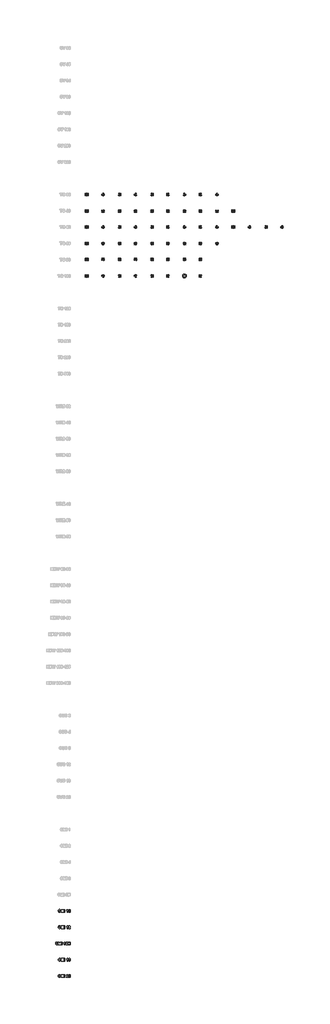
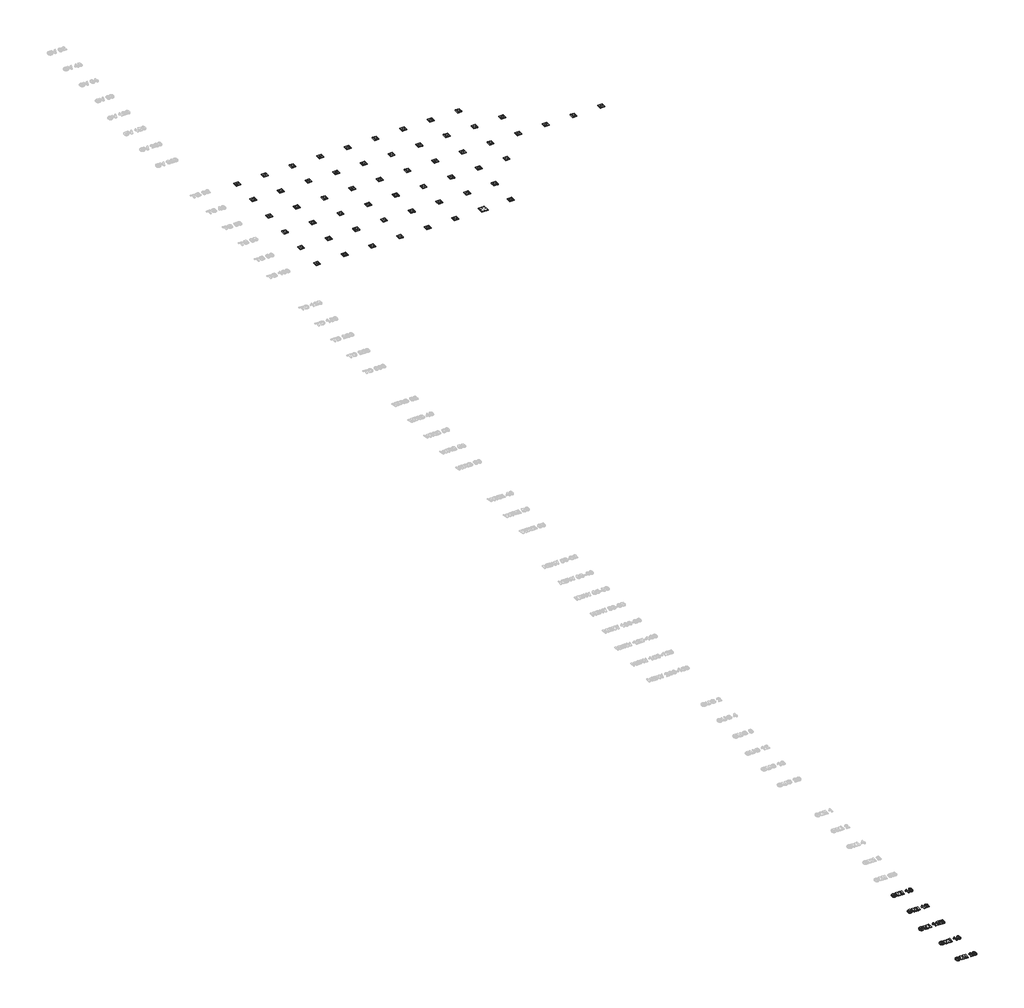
# One storey, part 1 of 9: 62 proxies.
"""IFC4 building model written with IfcOpenShell, lengths in millimetres."""

from ifc_helpers import new_model, si_unit, origin, origin_with_axes, place, context, project, spatial, polyline, outline, extrude, transform, mapped, element, save
from components import mechanical_equipment_3c7e0f70, mechanical_equipment_df366a0f

model = new_model("IFC4")

# Units and contexts
model_context = context("Model", 3, world=origin())
ifc_project = project(units=[si_unit("LENGTHUNIT", "METRE", prefix="MILLI")], contexts=[model_context])

# Site, building, storey
site = spatial("IfcSite", under=ifc_project)
building = spatial("IfcBuilding", under=site)
storey = spatial("IfcBuildingStorey", under=building, Name="Этаж 01", Elevation=0.0)

# Proxies
placement = place(None, origin())
element("IfcBuildingElementProxy", 1, Name="Wellmix_Надпись1", ObjectType="Wellmix_Надпись1", at=placement, inside=storey, context=model_context, shape_type="SweptSolid", body=[
    extrude(outline(polyline([(23925.2814314, -81009.0718122), (23973.8652124, -81025.2664059), (23958.5404455, -81061.0479177), (23948.0194949, -81074.9829386), (23935.5928329, -81086.2808027), (23905.2279698, -81101.2497313), (23867.6514517, -81106.2393741), (23843.3239774, -81104.1082985), (23821.2659603, -81097.7150714), (23801.4774004, -81087.059693), (23783.9582978, -81072.1421633), (23769.6219705, -81053.5278696), (23759.3817367, -81031.7821994), (23753.2375965, -81006.9051527), (23751.1895497, -80978.8967295), (23753.2553884, -80949.3621557), (23759.4529044, -80923.3227041), (23769.7820977, -80900.7783747), (23784.2429684, -80881.7291676), (23802.0724411, -80866.5902274), (23822.5074404, -80855.7766987), (23845.5479664, -80849.2885815), (23871.1940191, -80847.1258757), (23893.6197356, -80848.9090207), (23913.8313476, -80854.2584556), (23931.828855, -80863.1741803), (23947.6122578, -80875.656195), (23962.9370247, -80896.1682926), (23973.8652124, -80924.0501956), (23925.2814314, -80932.1474924), (23917.8404585, -80915.34402), (23905.1330796, -80902.5101208), (23888.1398268, -80894.3732864), (23867.8412321, -80891.6610083), (23840.3942426, -80896.587391), (23818.6564799, -80911.3665392), (23810.3951021, -80922.7434785), (23804.494118, -80937.1687653), (23799.7733306, -80975.1643818), (23804.3517827, -81015.2396751), (23810.0748477, -81030.2244187), (23818.0871387, -81041.8405603), (23839.16067, -81056.7383213), (23865.7536477, -81061.7042416), (23885.830832, -81058.5333275), (23902.918975, -81049.0205853), (23916.3064003, -81032.6915638), (23925.2814314, -81009.0718122)])), origin_with_axes(), (0.0, 0.0, 1.0), 30.0),
    extrude(outline(polyline([(24014.3516965, -81106.2393741), (24014.3516965, -80851.1745242), (24097.6020295, -80851.1745242), (24137.8354731, -81025.1398856), (24178.0689167, -80851.1745242), (24261.3192497, -80851.1745242), (24261.3192497, -81106.2393741), (24212.7354687, -81106.2393741), (24210.7111445, -80905.4517169), (24166.3025322, -81106.2393741), (24109.4316741, -81106.2393741), (24064.9598017, -80905.4517169), (24062.9354775, -81106.2393741), (24014.3516965, -81106.2393741)])), origin_with_axes(), (0.0, 0.0, 1.0), 30.0),
    extrude(outline(polyline([(24309.9030306, -81106.2393741), (24309.9030306, -80851.1745242), (24358.4868116, -80851.1745242), (24358.4868116, -81106.2393741), (24309.9030306, -81106.2393741)])), origin_with_axes(), (0.0, 0.0, 1.0), 30.0),
    extrude(outline(polyline([(24617.60031, -81106.2393741), (24569.016529, -81106.2393741), (24569.016529, -80923.9236753), (24540.9606607, -80947.8043749), (24508.2868028, -80964.5366797), (24508.2868028, -80915.9528988), (24527.7551083, -80906.8671624), (24548.8365471, -80892.1354593), (24567.2926904, -80873.1178823), (24578.8851095, -80851.1745242), (24617.60031, -80851.1745242), (24617.60031, -81106.2393741)])), origin_with_axes(), (0.0, 0.0, 1.0), 30.0),
    extrude(outline(polyline([(24771.4489497, -80851.1745242), (24788.580584, -80852.8192876), (24803.7274317, -80857.7535778), (24816.8894928, -80865.9773949), (24828.0667673, -80877.4907388), (24838.7221457, -80895.6187203), (24846.3331303, -80918.8786798), (24850.899721, -80947.2706176), (24852.4219179, -80980.7945335), (24850.8918135, -81014.2868193), (24846.3015002, -81042.7103871), (24838.650978, -81066.0652369), (24827.940247, -81084.3513687), (24816.8183252, -81095.6986547), (24803.6958017, -81103.8038591), (24788.5726765, -81108.6669817), (24771.4489497, -81110.2880226), (24754.1413731, -81108.5088314), (24738.5932189, -81103.1712578), (24724.8044871, -81094.2753018), (24712.7751777, -81081.8209634), (24703.0192793, -81064.8000343), (24696.0507805, -81042.2043061), (24691.8696812, -81014.0337788), (24690.4759814, -80980.2884524), (24692.0060858, -80946.9622244), (24696.5963991, -80918.6572694), (24704.2469213, -80895.3735872), (24714.9576523, -80877.111178), (24726.0795741, -80865.763892), (24739.2020977, -80857.6586876), (24754.3252228, -80852.795565), (24771.4489497, -80851.1745242)]), holes=[polyline([(24771.4489497, -80895.7096567), (24755.254356, -80901.0551378), (24748.9283429, -80908.5277408), (24744.2470931, -80920.2545877), (24740.3565951, -80944.4041429), (24739.0597624, -80980.7945335), (24740.2142598, -81016.7025656), (24743.677752, -81039.278525), (24748.9046203, -81052.5315225), (24755.3492462, -81060.470669), (24771.4489497, -81065.75289), (24787.6435433, -81060.4074089), (24793.9695565, -81052.9348059), (24798.6508062, -81041.207959), (24802.5413043, -81017.1849241), (24803.838137, -80980.7945335), (24802.6836396, -80944.926039), (24799.2201474, -80922.342172), (24793.993279, -80909.0496369), (24787.5486531, -80901.0551378), (24771.4489497, -80895.7096567)])]), origin_with_axes(), (0.0, 0.0, 1.0), 30.0),
])
element("IfcBuildingElementProxy", 2, Name="Wellmix_Надпись1", ObjectType="Wellmix_Надпись1", at=placement, inside=storey, context=model_context, shape_type="SweptSolid", body=[
    extrude(outline(polyline([(23925.2814314, -82509.0718122), (23973.8652124, -82525.2664059), (23958.5404455, -82561.0479177), (23948.0194949, -82574.9829386), (23935.5928329, -82586.2808027), (23905.2279698, -82601.2497313), (23867.6514517, -82606.2393741), (23843.3239774, -82604.1082985), (23821.2659603, -82597.7150714), (23801.4774004, -82587.059693), (23783.9582978, -82572.1421633), (23769.6219705, -82553.5278696), (23759.3817367, -82531.7821994), (23753.2375965, -82506.9051527), (23751.1895497, -82478.8967295), (23753.2553884, -82449.3621557), (23759.4529044, -82423.3227041), (23769.7820977, -82400.7783747), (23784.2429684, -82381.7291676), (23802.0724411, -82366.5902274), (23822.5074404, -82355.7766987), (23845.5479664, -82349.2885815), (23871.1940191, -82347.1258757), (23893.6197356, -82348.9090207), (23913.8313476, -82354.2584556), (23931.828855, -82363.1741803), (23947.6122578, -82375.656195), (23962.9370247, -82396.1682926), (23973.8652124, -82424.0501956), (23925.2814314, -82432.1474924), (23917.8404585, -82415.34402), (23905.1330796, -82402.5101208), (23888.1398268, -82394.3732864), (23867.8412321, -82391.6610083), (23840.3942426, -82396.587391), (23818.6564799, -82411.3665392), (23810.3951021, -82422.7434785), (23804.494118, -82437.1687653), (23799.7733306, -82475.1643818), (23804.3517827, -82515.2396751), (23810.0748477, -82530.2244187), (23818.0871387, -82541.8405603), (23839.16067, -82556.7383213), (23865.7536477, -82561.7042416), (23885.830832, -82558.5333275), (23902.918975, -82549.0205853), (23916.3064003, -82532.6915638), (23925.2814314, -82509.0718122)])), origin_with_axes(), (0.0, 0.0, 1.0), 30.0),
    extrude(outline(polyline([(24014.3516965, -82606.2393741), (24014.3516965, -82351.1745242), (24097.6020295, -82351.1745242), (24137.8354731, -82525.1398856), (24178.0689167, -82351.1745242), (24261.3192497, -82351.1745242), (24261.3192497, -82606.2393741), (24212.7354687, -82606.2393741), (24210.7111445, -82405.4517169), (24166.3025322, -82606.2393741), (24109.4316741, -82606.2393741), (24064.9598017, -82405.4517169), (24062.9354775, -82606.2393741), (24014.3516965, -82606.2393741)])), origin_with_axes(), (0.0, 0.0, 1.0), 30.0),
    extrude(outline(polyline([(24309.9030306, -82606.2393741), (24309.9030306, -82351.1745242), (24358.4868116, -82351.1745242), (24358.4868116, -82606.2393741), (24309.9030306, -82606.2393741)])), origin_with_axes(), (0.0, 0.0, 1.0), 30.0),
    extrude(outline(polyline([(24617.60031, -82606.2393741), (24569.016529, -82606.2393741), (24569.016529, -82423.9236753), (24540.9606607, -82447.8043749), (24508.2868028, -82464.5366797), (24508.2868028, -82415.9528988), (24527.7551083, -82406.8671624), (24548.8365471, -82392.1354593), (24567.2926904, -82373.1178823), (24578.8851095, -82351.1745242), (24617.60031, -82351.1745242), (24617.60031, -82606.2393741)])), origin_with_axes(), (0.0, 0.0, 1.0), 30.0),
    extrude(outline(polyline([(24852.4219179, -82557.6555932), (24852.4219179, -82606.2393741), (24690.4759814, -82606.2393741), (24695.6474972, -82581.7339807), (24705.9747136, -82558.5728651), (24725.1583485, -82532.3910782), (24756.8991194, -82498.823671), (24794.4756375, -82458.0841463), (24801.4975121, -82443.3761657), (24803.838137, -82428.8579656), (24801.8691654, -82414.7114187), (24795.9622506, -82404.2814045), (24786.5918436, -82397.8525936), (24774.2323954, -82395.7096567), (24761.9599299, -82397.8209636), (24752.4709102, -82404.1548842), (24746.0816369, -82415.3756501), (24743.1084108, -82432.1474924), (24694.5246298, -82427.7192832), (24703.1280077, -82392.5703727), (24710.7508535, -82379.3312133), (24720.587804, -82368.9822512), (24745.2118101, -82355.6264559), (24775.3078177, -82351.1745242), (24807.4439644, -82356.164167), (24831.8623752, -82371.1330956), (24847.2820322, -82393.5192746), (24852.4219179, -82420.7606687), (24846.7917662, -82452.8968155), (24828.9524091, -82484.8431819), (24798.7456964, -82516.7262881), (24771.0061287, -82544.3709656), (24761.8966698, -82557.6555932), (24852.4219179, -82557.6555932)])), origin_with_axes(), (0.0, 0.0, 1.0), 30.0),
])
element("IfcBuildingElementProxy", 3, Name="Wellmix_Надпись1", ObjectType="Wellmix_Надпись1", at=placement, inside=storey, context=model_context, shape_type="SweptSolid", body=[
    extrude(outline(polyline([(23670.2165814, -84009.0718122), (23718.8003624, -84025.2664059), (23703.4755956, -84061.0479177), (23692.9546449, -84074.9829386), (23680.5279829, -84086.2808027), (23650.1631198, -84101.2497313), (23612.5866017, -84106.2393741), (23588.2591274, -84104.1082985), (23566.2011103, -84097.7150714), (23546.4125505, -84087.059693), (23528.8934478, -84072.1421633), (23514.5571205, -84053.5278696), (23504.3168867, -84031.7821994), (23498.1727465, -84006.9051527), (23496.1246997, -83978.8967295), (23498.1905384, -83949.3621557), (23504.3880544, -83923.3227041), (23514.7172477, -83900.7783747), (23529.1781184, -83881.7291676), (23547.0075911, -83866.5902274), (23567.4425904, -83855.7766987), (23590.4831164, -83849.2885815), (23616.1291691, -83847.1258757), (23638.5548857, -83848.9090207), (23658.7664977, -83854.2584556), (23676.7640051, -83863.1741803), (23692.5474078, -83875.656195), (23707.8721747, -83896.1682926), (23718.8003624, -83924.0501956), (23670.2165814, -83932.1474924), (23662.7756085, -83915.34402), (23650.0682296, -83902.5101208), (23633.0749768, -83894.3732864), (23612.7763821, -83891.6610083), (23585.3293926, -83896.587391), (23563.5916299, -83911.3665392), (23555.3302521, -83922.7434785), (23549.429268, -83937.1687653), (23544.7084807, -83975.1643818), (23549.2869327, -84015.2396751), (23555.0099977, -84030.2244187), (23563.0222887, -84041.8405603), (23584.09582, -84056.7383213), (23610.6887978, -84061.7042416), (23630.765982, -84058.5333275), (23647.854125, -84049.0205853), (23661.2415503, -84032.6915638), (23670.2165814, -84009.0718122)])), origin_with_axes(), (0.0, 0.0, 1.0), 30.0),
    extrude(outline(polyline([(23759.2868465, -84106.2393741), (23759.2868465, -83851.1745242), (23842.5371795, -83851.1745242), (23882.7706231, -84025.1398856), (23923.0040667, -83851.1745242), (24006.2543997, -83851.1745242), (24006.2543997, -84106.2393741), (23957.6706187, -84106.2393741), (23955.6462945, -83905.4517169), (23911.2376823, -84106.2393741), (23854.3668241, -84106.2393741), (23809.8949517, -83905.4517169), (23807.8706275, -84106.2393741), (23759.2868465, -84106.2393741)])), origin_with_axes(), (0.0, 0.0, 1.0), 30.0),
    extrude(outline(polyline([(24054.8381806, -84106.2393741), (24054.8381806, -83851.1745242), (24103.4219616, -83851.1745242), (24103.4219616, -84106.2393741), (24054.8381806, -84106.2393741)])), origin_with_axes(), (0.0, 0.0, 1.0), 30.0),
    extrude(outline(polyline([(24362.53546, -84106.2393741), (24313.951679, -84106.2393741), (24313.951679, -83923.9236753), (24285.8958107, -83947.8043749), (24253.2219529, -83964.5366797), (24253.2219529, -83915.9528988), (24272.6902583, -83906.8671624), (24293.7716971, -83892.1354593), (24312.2278405, -83873.1178823), (24323.8202595, -83851.1745242), (24362.53546, -83851.1745242), (24362.53546, -84106.2393741)])), origin_with_axes(), (0.0, 0.0, 1.0), 30.0),
    extrude(outline(polyline([(24597.3570679, -84057.6555932), (24597.3570679, -84106.2393741), (24435.4111314, -84106.2393741), (24440.5826472, -84081.7339807), (24450.9098636, -84058.5728651), (24470.0934985, -84032.3910782), (24501.8342694, -83998.823671), (24539.4107875, -83958.0841463), (24546.4326621, -83943.3761657), (24548.773287, -83928.8579656), (24546.8043154, -83914.7114187), (24540.8974006, -83904.2814045), (24531.5269936, -83897.8525936), (24519.1675455, -83895.7096567), (24506.89508, -83897.8209636), (24497.4060602, -83904.1548842), (24491.016787, -83915.3756501), (24488.0435608, -83932.1474924), (24439.4597798, -83927.7192832), (24448.0631577, -83892.5703727), (24455.6860035, -83879.3312133), (24465.522954, -83868.9822512), (24490.1469601, -83855.6264559), (24520.2429677, -83851.1745242), (24552.3791145, -83856.164167), (24576.7975252, -83871.1330956), (24592.2171822, -83893.5192746), (24597.3570679, -83920.7606687), (24591.7269162, -83952.8968155), (24573.8875592, -83984.8431819), (24543.6808464, -84016.7262881), (24515.9412787, -84044.3709656), (24506.8318198, -84057.6555932), (24597.3570679, -84057.6555932)])), origin_with_axes(), (0.0, 0.0, 1.0), 30.0),
    extrude(outline(polyline([(24637.843552, -83851.1745242), (24742.5390696, -83851.1745242), (24788.8771159, -83853.7049294), (24816.2054927, -83864.3010014), (24827.2522931, -83873.695131), (24836.2905844, -83885.746186), (24842.3161119, -83899.940178), (24844.3246211, -83915.7631184), (24841.9286436, -83933.0015042), (24834.7407112, -83948.784907), (24823.4408702, -83961.9588294), (24808.7091671, -83971.3687739), (24827.3392758, -83980.5098629), (24841.0983544, -83994.3954617), (24849.591027, -84012.0924835), (24852.4219179, -84032.6678413), (24850.3896862, -84049.7559843), (24844.292991, -84066.3538613), (24834.677451, -84081.0618418), (24822.0886849, -84092.4802956), (24806.3764497, -84100.3799045), (24787.3905028, -84104.5313506), (24725.0160132, -84106.2393741), (24637.843552, -84106.2393741), (24637.843552, -83851.1745242)]), holes=[polyline([(24686.427333, -83895.7096567), (24686.427333, -83952.3907345), (24723.49777, -83952.3907345), (24764.6168555, -83951.5683528), (24777.5614599, -83948.6109416), (24787.4221328, -83942.7751945), (24793.6611633, -83934.345782), (24795.7408401, -83923.6073747), (24793.9458339, -83913.3355108), (24788.5608152, -83905.1670463), (24779.6490442, -83899.449912), (24767.273781, -83896.5320384), (24718.9430406, -83895.7096567), (24686.427333, -83895.7096567)]), polyline([(24686.427333, -83996.925867), (24686.427333, -84061.7042416), (24737.7945597, -84061.7042416), (24775.8771589, -84060.1859985), (24787.1216472, -84056.7936739), (24796.0571408, -84050.5388284), (24801.8928879, -84041.5479822), (24803.838137, -84029.9476556), (24802.3357088, -84019.8892947), (24797.8284245, -84011.4756972), (24780.4951485, -84000.4051742), (24731.2787662, -83996.925867), (24686.427333, -83996.925867)])]), origin_with_axes(), (0.0, 0.0, 1.0), 30.0),
])
element("IfcBuildingElementProxy", 4, Name="Wellmix_Надпись1", ObjectType="Wellmix_Надпись1", at=placement, inside=storey, context=model_context, shape_type="SweptSolid", body=[
    extrude(outline(polyline([(23925.2814314, -85509.0718122), (23973.8652124, -85525.2664059), (23958.5404455, -85561.0479177), (23948.0194949, -85574.9829386), (23935.5928329, -85586.2808027), (23905.2279698, -85601.2497313), (23867.6514517, -85606.2393741), (23843.3239774, -85604.1082985), (23821.2659603, -85597.7150714), (23801.4774004, -85587.059693), (23783.9582978, -85572.1421633), (23769.6219705, -85553.5278696), (23759.3817367, -85531.7821994), (23753.2375965, -85506.9051527), (23751.1895497, -85478.8967295), (23753.2553884, -85449.3621557), (23759.4529044, -85423.3227041), (23769.7820977, -85400.7783747), (23784.2429684, -85381.7291676), (23802.0724411, -85366.5902274), (23822.5074404, -85355.7766987), (23845.5479664, -85349.2885815), (23871.1940191, -85347.1258757), (23893.6197356, -85348.9090207), (23913.8313476, -85354.2584556), (23931.828855, -85363.1741803), (23947.6122578, -85375.656195), (23962.9370247, -85396.1682926), (23973.8652124, -85424.0501956), (23925.2814314, -85432.1474924), (23917.8404585, -85415.34402), (23905.1330796, -85402.5101208), (23888.1398268, -85394.3732864), (23867.8412321, -85391.6610083), (23840.3942426, -85396.587391), (23818.6564799, -85411.3665392), (23810.3951021, -85422.7434785), (23804.494118, -85437.1687653), (23799.7733306, -85475.1643818), (23804.3517827, -85515.2396751), (23810.0748477, -85530.2244187), (23818.0871387, -85541.8405603), (23839.16067, -85556.7383213), (23865.7536477, -85561.7042416), (23885.830832, -85558.5333275), (23902.918975, -85549.0205853), (23916.3064003, -85532.6915638), (23925.2814314, -85509.0718122)])), origin_with_axes(), (0.0, 0.0, 1.0), 30.0),
    extrude(outline(polyline([(24014.3516965, -85606.2393741), (24014.3516965, -85351.1745242), (24097.6020295, -85351.1745242), (24137.8354731, -85525.1398856), (24178.0689167, -85351.1745242), (24261.3192497, -85351.1745242), (24261.3192497, -85606.2393741), (24212.7354687, -85606.2393741), (24210.7111445, -85405.4517169), (24166.3025322, -85606.2393741), (24109.4316741, -85606.2393741), (24064.9598017, -85405.4517169), (24062.9354775, -85606.2393741), (24014.3516965, -85606.2393741)])), origin_with_axes(), (0.0, 0.0, 1.0), 30.0),
    extrude(outline(polyline([(24309.9030306, -85606.2393741), (24309.9030306, -85351.1745242), (24358.4868116, -85351.1745242), (24358.4868116, -85606.2393741), (24309.9030306, -85606.2393741)])), origin_with_axes(), (0.0, 0.0, 1.0), 30.0),
    extrude(outline(polyline([(24617.60031, -85606.2393741), (24569.016529, -85606.2393741), (24569.016529, -85423.9236753), (24540.9606607, -85447.8043749), (24508.2868028, -85464.5366797), (24508.2868028, -85415.9528988), (24527.7551083, -85406.8671624), (24548.8365471, -85392.1354593), (24567.2926904, -85373.1178823), (24578.8851095, -85351.1745242), (24617.60031, -85351.1745242), (24617.60031, -85606.2393741)])), origin_with_axes(), (0.0, 0.0, 1.0), 30.0),
    extrude(outline(polyline([(24848.3732695, -85418.8628648), (24799.7894885, -85424.0501956), (24796.8162624, -85411.4535219), (24791.1861107, -85402.6366411), (24783.183704, -85397.4414028), (24773.0937131, -85395.7096567), (24759.4927848, -85399.0703512), (24748.1692213, -85409.1524346), (24739.866329, -85429.9887404), (24735.3274146, -85465.6121019), (24755.3492462, -85449.6231037), (24779.7360269, -85444.2934376), (24807.5625772, -85449.9868495), (24831.0716235, -85467.067085), (24847.0843443, -85493.1460742), (24852.4219179, -85525.8357471), (24846.9657316, -85560.2729811), (24840.1454986, -85574.6626842), (24830.5971726, -85587.1664445), (24818.9059095, -85597.2821349), (24805.6568657, -85604.507628), (24774.485436, -85610.2880226), (24756.954472, -85608.4218487), (24741.0524565, -85602.823327), (24726.7793893, -85593.4924577), (24714.1352706, -85580.4292405), (24703.7843316, -85563.1157333), (24696.3908037, -85541.0339937), (24691.954687, -85514.1840216), (24690.4759814, -85482.5658172), (24692.019924, -85450.1133697), (24696.6517517, -85422.5319524), (24704.3714647, -85399.8215652), (24715.1790627, -85381.9822082), (24728.4538059, -85368.5038464), (24743.5749542, -85358.8764452), (24760.5425076, -85353.1000044), (24779.3564661, -85351.1745242), (24804.6763337, -85355.5078432), (24825.2200614, -85368.5078002), (24840.0861923, -85389.7632043), (24848.3732695, -85418.8628648)]), holes=[polyline([(24739.0597624, -85524.7603248), (24741.6850578, -85542.1805835), (24749.5609442, -85555.0935579), (24760.8054325, -85563.088057), (24773.536534, -85565.75289), (24785.4294387, -85563.5704155), (24795.1714989, -85557.0229919), (24801.6714775, -85545.4938329), (24803.838137, -85528.3661523), (24801.5054196, -85510.6137779), (24794.5072676, -85498.34922), (24784.0139933, -85491.2087326), (24771.1959091, -85488.8285702), (24758.7573858, -85491.1059349), (24748.3906317, -85497.9380291), (24741.3924797, -85509.1983325), (24739.0597624, -85524.7603248)])]), origin_with_axes(), (0.0, 0.0, 1.0), 30.0),
])
element("IfcBuildingElementProxy", 5, Name="Wellmix_Надпись1", ObjectType="Wellmix_Надпись1", at=placement, inside=storey, context=model_context, shape_type="SweptSolid", body=[
    extrude(outline(polyline([(23925.2814314, -87009.0718122), (23973.8652124, -87025.2664059), (23958.5404455, -87061.0479177), (23948.0194949, -87074.9829386), (23935.5928329, -87086.2808027), (23905.2279698, -87101.2497313), (23867.6514517, -87106.2393741), (23843.3239774, -87104.1082985), (23821.2659603, -87097.7150714), (23801.4774004, -87087.059693), (23783.9582978, -87072.1421633), (23769.6219705, -87053.5278696), (23759.3817367, -87031.7821994), (23753.2375965, -87006.9051527), (23751.1895497, -86978.8967295), (23753.2553884, -86949.3621557), (23759.4529044, -86923.3227041), (23769.7820977, -86900.7783747), (23784.2429684, -86881.7291676), (23802.0724411, -86866.5902274), (23822.5074404, -86855.7766987), (23845.5479664, -86849.2885815), (23871.1940191, -86847.1258757), (23893.6197356, -86848.9090207), (23913.8313476, -86854.2584556), (23931.828855, -86863.1741803), (23947.6122578, -86875.656195), (23962.9370247, -86896.1682926), (23973.8652124, -86924.0501956), (23925.2814314, -86932.1474924), (23917.8404585, -86915.34402), (23905.1330796, -86902.5101208), (23888.1398268, -86894.3732864), (23867.8412321, -86891.6610083), (23840.3942426, -86896.587391), (23818.6564799, -86911.3665392), (23810.3951021, -86922.7434785), (23804.494118, -86937.1687653), (23799.7733306, -86975.1643818), (23804.3517827, -87015.2396751), (23810.0748477, -87030.2244187), (23818.0871387, -87041.8405603), (23839.16067, -87056.7383213), (23865.7536477, -87061.7042416), (23885.830832, -87058.5333275), (23902.918975, -87049.0205853), (23916.3064003, -87032.6915638), (23925.2814314, -87009.0718122)])), origin_with_axes(), (0.0, 0.0, 1.0), 30.0),
    extrude(outline(polyline([(24014.3516965, -87106.2393741), (24014.3516965, -86851.1745242), (24097.6020295, -86851.1745242), (24137.8354731, -87025.1398856), (24178.0689167, -86851.1745242), (24261.3192497, -86851.1745242), (24261.3192497, -87106.2393741), (24212.7354687, -87106.2393741), (24210.7111445, -86905.4517169), (24166.3025322, -87106.2393741), (24109.4316741, -87106.2393741), (24064.9598017, -86905.4517169), (24062.9354775, -87106.2393741), (24014.3516965, -87106.2393741)])), origin_with_axes(), (0.0, 0.0, 1.0), 30.0),
    extrude(outline(polyline([(24309.9030306, -87106.2393741), (24309.9030306, -86851.1745242), (24358.4868116, -86851.1745242), (24358.4868116, -87106.2393741), (24309.9030306, -87106.2393741)])), origin_with_axes(), (0.0, 0.0, 1.0), 30.0),
    extrude(outline(polyline([(24658.0867941, -87057.6555932), (24658.0867941, -87106.2393741), (24496.1408576, -87106.2393741), (24501.3123734, -87081.7339807), (24511.6395898, -87058.5728651), (24530.8232247, -87032.3910782), (24562.5639956, -86998.823671), (24600.1405137, -86958.0841463), (24607.1623883, -86943.3761657), (24609.5030132, -86928.8579656), (24607.5340416, -86914.7114187), (24601.6271268, -86904.2814045), (24592.2567198, -86897.8525936), (24579.8972716, -86895.7096567), (24567.6248061, -86897.8209636), (24558.1357864, -86904.1548842), (24551.7465131, -86915.3756501), (24548.773287, -86932.1474924), (24500.189506, -86927.7192832), (24508.7928839, -86892.5703727), (24516.4157297, -86879.3312133), (24526.2526802, -86868.9822512), (24550.8766863, -86855.6264559), (24580.9726939, -86851.1745242), (24613.1088406, -86856.164167), (24637.5272514, -86871.1330956), (24652.9469084, -86893.5192746), (24658.0867941, -86920.7606687), (24652.4566424, -86952.8968155), (24634.6172853, -86984.8431819), (24604.4105726, -87016.7262881), (24576.6710049, -87044.3709656), (24567.561546, -87057.6555932), (24658.0867941, -87057.6555932)])), origin_with_axes(), (0.0, 0.0, 1.0), 30.0),
    extrude(outline(polyline([(24771.4489497, -86851.1745242), (24788.580584, -86852.8192876), (24803.7274317, -86857.7535778), (24816.8894928, -86865.9773949), (24828.0667673, -86877.4907388), (24838.7221457, -86895.6187203), (24846.3331303, -86918.8786798), (24850.899721, -86947.2706176), (24852.4219179, -86980.7945335), (24850.8918135, -87014.2868193), (24846.3015002, -87042.7103871), (24838.650978, -87066.0652369), (24827.940247, -87084.3513687), (24816.8183252, -87095.6986547), (24803.6958017, -87103.8038591), (24788.5726765, -87108.6669817), (24771.4489497, -87110.2880226), (24754.1413731, -87108.5088314), (24738.5932189, -87103.1712578), (24724.8044871, -87094.2753018), (24712.7751777, -87081.8209634), (24703.0192793, -87064.8000343), (24696.0507805, -87042.2043061), (24691.8696812, -87014.0337788), (24690.4759814, -86980.2884524), (24692.0060858, -86946.9622244), (24696.5963991, -86918.6572694), (24704.2469213, -86895.3735872), (24714.9576523, -86877.111178), (24726.0795741, -86865.763892), (24739.2020977, -86857.6586876), (24754.3252228, -86852.795565), (24771.4489497, -86851.1745242)]), holes=[polyline([(24771.4489497, -86895.7096567), (24755.254356, -86901.0551378), (24748.9283429, -86908.5277408), (24744.2470931, -86920.2545877), (24740.3565951, -86944.4041429), (24739.0597624, -86980.7945335), (24740.2142598, -87016.7025656), (24743.677752, -87039.278525), (24748.9046203, -87052.5315225), (24755.3492462, -87060.470669), (24771.4489497, -87065.75289), (24787.6435433, -87060.4074089), (24793.9695565, -87052.9348059), (24798.6508062, -87041.207959), (24802.5413043, -87017.1849241), (24803.838137, -86980.7945335), (24802.6836396, -86944.926039), (24799.2201474, -86922.342172), (24793.993279, -86909.0496369), (24787.5486531, -86901.0551378), (24771.4489497, -86895.7096567)])]), origin_with_axes(), (0.0, 0.0, 1.0), 30.0),
])
mechanical_equipment_shape = mechanical_equipment_3c7e0f70(model_context)
element("IfcBuildingElementProxy", 6, Name="Wellmix_Присоединительная база : База А", ObjectType="Wellmix_Присоединительная база : База А", at=placement, inside=storey, context=model_context, shape_type="MappedRepresentation", body=[
    mapped(mechanical_equipment_shape, transform((26369.0, -14979.0, -100.0), x_axis=(0.0, -1.0, 0.0), y_axis=(1.0, 0.0, 0.0), z_axis=(0.0, 0.0, 1.0))),
])
element("IfcBuildingElementProxy", 7, Name="Wellmix_Присоединительная база : База А", ObjectType="Wellmix_Присоединительная база : База А", at=placement, inside=storey, context=model_context, shape_type="MappedRepresentation", body=[
    mapped(mechanical_equipment_shape, transform((27869.0, -14979.0, -100.0), x_axis=(0.0, -1.0, 0.0), y_axis=(1.0, 0.0, 0.0), z_axis=(0.0, 0.0, 1.0))),
])
element("IfcBuildingElementProxy", 8, Name="Wellmix_Присоединительная база : База А", ObjectType="Wellmix_Присоединительная база : База А", at=placement, inside=storey, context=model_context, shape_type="MappedRepresentation", body=[
    mapped(mechanical_equipment_shape, transform((29369.0, -14979.0, -100.0), x_axis=(0.0, -1.0, 0.0), y_axis=(1.0, 0.0, 0.0), z_axis=(0.0, 0.0, 1.0))),
])
element("IfcBuildingElementProxy", 9, Name="Wellmix_Присоединительная база : База А", ObjectType="Wellmix_Присоединительная база : База А", at=placement, inside=storey, context=model_context, shape_type="MappedRepresentation", body=[
    mapped(mechanical_equipment_shape, transform((30869.0, -14979.0, -100.0), x_axis=(0.0, -1.0, 0.0), y_axis=(1.0, 0.0, 0.0), z_axis=(0.0, 0.0, 1.0))),
])
element("IfcBuildingElementProxy", 10, Name="Wellmix_Присоединительная база : База А", ObjectType="Wellmix_Присоединительная база : База А", at=placement, inside=storey, context=model_context, shape_type="MappedRepresentation", body=[
    mapped(mechanical_equipment_shape, transform((32369.0, -14979.0, -100.0), x_axis=(0.0, -1.0, 0.0), y_axis=(1.0, 0.0, 0.0), z_axis=(0.0, 0.0, 1.0))),
])
element("IfcBuildingElementProxy", 11, Name="Wellmix_Присоединительная база : База А", ObjectType="Wellmix_Присоединительная база : База А", at=placement, inside=storey, context=model_context, shape_type="MappedRepresentation", body=[
    mapped(mechanical_equipment_shape, transform((33869.0, -14979.0, -100.0), x_axis=(0.0, -1.0, 0.0), y_axis=(1.0, 0.0, 0.0), z_axis=(0.0, 0.0, 1.0))),
])
element("IfcBuildingElementProxy", 12, Name="Wellmix_Присоединительная база : База А", ObjectType="Wellmix_Присоединительная база : База А", at=placement, inside=storey, context=model_context, shape_type="MappedRepresentation", body=[
    mapped(mechanical_equipment_shape, transform((35369.0, -14979.0, -100.0), x_axis=(0.0, -1.0, 0.0), y_axis=(1.0, 0.0, 0.0), z_axis=(0.0, 0.0, 1.0))),
])
element("IfcBuildingElementProxy", 13, Name="Wellmix_Присоединительная база : База А", ObjectType="Wellmix_Присоединительная база : База А", at=placement, inside=storey, context=model_context, shape_type="MappedRepresentation", body=[
    mapped(mechanical_equipment_shape, transform((36869.0, -14979.0, -100.0), x_axis=(0.0, -1.0, 0.0), y_axis=(1.0, 0.0, 0.0), z_axis=(0.0, 0.0, 1.0))),
])
element("IfcBuildingElementProxy", 14, Name="Wellmix_Присоединительная база : База А", ObjectType="Wellmix_Присоединительная база : База А", at=placement, inside=storey, context=model_context, shape_type="MappedRepresentation", body=[
    mapped(mechanical_equipment_shape, transform((38369.0, -14979.0, -100.0), x_axis=(0.0, -1.0, 0.0), y_axis=(1.0, 0.0, 0.0), z_axis=(0.0, 0.0, 1.0))),
])
element("IfcBuildingElementProxy", 15, Name="Wellmix_Присоединительная база : База А", ObjectType="Wellmix_Присоединительная база : База А", at=placement, inside=storey, context=model_context, shape_type="MappedRepresentation", body=[
    mapped(mechanical_equipment_shape, transform((26369.0, -16478.8062128, -68.0), x_axis=(1.0, 0.0, 0.0), y_axis=(0.0, 1.0, 0.0), z_axis=(0.0, 0.0, 1.0))),
])
element("IfcBuildingElementProxy", 16, Name="Wellmix_Присоединительная база : База А", ObjectType="Wellmix_Присоединительная база : База А", at=placement, inside=storey, context=model_context, shape_type="MappedRepresentation", body=[
    mapped(mechanical_equipment_shape, transform((27869.0, -16478.8062128, -100.0), x_axis=(0.0, -1.0, 0.0), y_axis=(1.0, 0.0, 0.0), z_axis=(0.0, 0.0, 1.0))),
])
element("IfcBuildingElementProxy", 17, Name="Wellmix_Присоединительная база : База А", ObjectType="Wellmix_Присоединительная база : База А", at=placement, inside=storey, context=model_context, shape_type="MappedRepresentation", body=[
    mapped(mechanical_equipment_shape, transform((29369.0, -16478.8062128, -68.0), x_axis=(1.0, 0.0, 0.0), y_axis=(0.0, 1.0, 0.0), z_axis=(0.0, 0.0, 1.0))),
])
element("IfcBuildingElementProxy", 18, Name="Wellmix_Присоединительная база : База А", ObjectType="Wellmix_Присоединительная база : База А", at=placement, inside=storey, context=model_context, shape_type="MappedRepresentation", body=[
    mapped(mechanical_equipment_shape, transform((30869.0, -16478.8062128, -100.0), x_axis=(0.0, -1.0, 0.0), y_axis=(1.0, 0.0, 0.0), z_axis=(0.0, 0.0, 1.0))),
])
element("IfcBuildingElementProxy", 19, Name="Wellmix_Присоединительная база : База А", ObjectType="Wellmix_Присоединительная база : База А", at=placement, inside=storey, context=model_context, shape_type="MappedRepresentation", body=[
    mapped(mechanical_equipment_shape, transform((32369.0, -16478.8062128, -100.0), x_axis=(0.0, -1.0, 0.0), y_axis=(1.0, 0.0, 0.0), z_axis=(0.0, 0.0, 1.0))),
])
element("IfcBuildingElementProxy", 20, Name="Wellmix_Присоединительная база : База А", ObjectType="Wellmix_Присоединительная база : База А", at=placement, inside=storey, context=model_context, shape_type="MappedRepresentation", body=[
    mapped(mechanical_equipment_shape, transform((33869.0, -16478.8062128, -110.0), x_axis=(0.0, -1.0, 0.0), y_axis=(1.0, 0.0, 0.0), z_axis=(0.0, 0.0, 1.0))),
])
element("IfcBuildingElementProxy", 21, Name="Wellmix_Присоединительная база : База А", ObjectType="Wellmix_Присоединительная база : База А", at=placement, inside=storey, context=model_context, shape_type="MappedRepresentation", body=[
    mapped(mechanical_equipment_shape, transform((35369.0, -16478.8062128, -110.0), x_axis=(0.0, -1.0, 0.0), y_axis=(1.0, 0.0, 0.0), z_axis=(0.0, 0.0, 1.0))),
])
element("IfcBuildingElementProxy", 22, Name="Wellmix_Присоединительная база : База А", ObjectType="Wellmix_Присоединительная база : База А", at=placement, inside=storey, context=model_context, shape_type="MappedRepresentation", body=[
    mapped(mechanical_equipment_shape, transform((36869.0, -16478.8062128, -68.0), x_axis=(1.0, 0.0, 0.0), y_axis=(0.0, 1.0, 0.0), z_axis=(0.0, 0.0, 1.0))),
])
element("IfcBuildingElementProxy", 23, Name="Wellmix_Присоединительная база : База А", ObjectType="Wellmix_Присоединительная база : База А", at=placement, inside=storey, context=model_context, shape_type="MappedRepresentation", body=[
    mapped(mechanical_equipment_shape, transform((38369.0, -16478.8062128, -100.0), x_axis=(0.0, -1.0, 0.0), y_axis=(1.0, 0.0, 0.0), z_axis=(0.0, 0.0, 1.0))),
])
element("IfcBuildingElementProxy", 24, Name="Wellmix_Присоединительная база : База А", ObjectType="Wellmix_Присоединительная база : База А", at=placement, inside=storey, context=model_context, shape_type="MappedRepresentation", body=[
    mapped(mechanical_equipment_shape, transform((39869.0, -16478.8062128, -68.0), x_axis=(1.0, 0.0, 0.0), y_axis=(0.0, 1.0, 0.0), z_axis=(0.0, 0.0, 1.0))),
])
element("IfcBuildingElementProxy", 25, Name="Wellmix_Присоединительная база : База А", ObjectType="Wellmix_Присоединительная база : База А", at=placement, inside=storey, context=model_context, shape_type="MappedRepresentation", body=[
    mapped(mechanical_equipment_shape, transform((26368.6165116, -17978.8062128, -115.0), x_axis=(0.0, -1.0, 0.0), y_axis=(1.0, 0.0, 0.0), z_axis=(0.0, 0.0, 1.0))),
])
element("IfcBuildingElementProxy", 26, Name="Wellmix_Присоединительная база : База А", ObjectType="Wellmix_Присоединительная база : База А", at=placement, inside=storey, context=model_context, shape_type="MappedRepresentation", body=[
    mapped(mechanical_equipment_shape, transform((27869.0, -17978.8062128, -115.0), x_axis=(0.0, -1.0, 0.0), y_axis=(1.0, 0.0, 0.0), z_axis=(0.0, 0.0, 1.0))),
])
element("IfcBuildingElementProxy", 27, Name="Wellmix_Присоединительная база : База А", ObjectType="Wellmix_Присоединительная база : База А", at=placement, inside=storey, context=model_context, shape_type="MappedRepresentation", body=[
    mapped(mechanical_equipment_shape, transform((29369.0, -17978.8062128, -115.0), x_axis=(0.0, -1.0, 0.0), y_axis=(1.0, 0.0, 0.0), z_axis=(0.0, 0.0, 1.0))),
])
element("IfcBuildingElementProxy", 28, Name="Wellmix_Присоединительная база : База А", ObjectType="Wellmix_Присоединительная база : База А", at=placement, inside=storey, context=model_context, shape_type="MappedRepresentation", body=[
    mapped(mechanical_equipment_shape, transform((30869.0, -17978.8062128, -115.0), x_axis=(0.0, -1.0, 0.0), y_axis=(1.0, 0.0, 0.0), z_axis=(0.0, 0.0, 1.0))),
])
element("IfcBuildingElementProxy", 29, Name="Wellmix_Присоединительная база : База А", ObjectType="Wellmix_Присоединительная база : База А", at=placement, inside=storey, context=model_context, shape_type="MappedRepresentation", body=[
    mapped(mechanical_equipment_shape, transform((32369.0, -17978.8062128, -115.0), x_axis=(0.0, -1.0, 0.0), y_axis=(1.0, 0.0, 0.0), z_axis=(0.0, 0.0, 1.0))),
])
element("IfcBuildingElementProxy", 30, Name="Wellmix_Присоединительная база : База А", ObjectType="Wellmix_Присоединительная база : База А", at=placement, inside=storey, context=model_context, shape_type="MappedRepresentation", body=[
    mapped(mechanical_equipment_shape, transform((33869.0, -17978.8062128, -115.0), x_axis=(0.0, -1.0, 0.0), y_axis=(1.0, 0.0, 0.0), z_axis=(0.0, 0.0, 1.0))),
])
element("IfcBuildingElementProxy", 31, Name="Wellmix_Присоединительная база : База А", ObjectType="Wellmix_Присоединительная база : База А", at=placement, inside=storey, context=model_context, shape_type="MappedRepresentation", body=[
    mapped(mechanical_equipment_shape, transform((35369.0, -17978.8062128, -115.0), x_axis=(0.0, -1.0, 0.0), y_axis=(1.0, 0.0, 0.0), z_axis=(0.0, 0.0, 1.0))),
])
element("IfcBuildingElementProxy", 32, Name="Wellmix_Присоединительная база : База А", ObjectType="Wellmix_Присоединительная база : База А", at=placement, inside=storey, context=model_context, shape_type="MappedRepresentation", body=[
    mapped(mechanical_equipment_shape, transform((36869.0, -17978.8062128, -115.0), x_axis=(0.0, -1.0, 0.0), y_axis=(1.0, 0.0, 0.0), z_axis=(0.0, 0.0, 1.0))),
])
element("IfcBuildingElementProxy", 33, Name="Wellmix_Присоединительная база : База А", ObjectType="Wellmix_Присоединительная база : База А", at=placement, inside=storey, context=model_context, shape_type="MappedRepresentation", body=[
    mapped(mechanical_equipment_shape, transform((38369.0, -17978.8062128, -115.0), x_axis=(0.0, -1.0, 0.0), y_axis=(1.0, 0.0, 0.0), z_axis=(0.0, 0.0, 1.0))),
])
element("IfcBuildingElementProxy", 34, Name="Wellmix_Присоединительная база : База А", ObjectType="Wellmix_Присоединительная база : База А", at=placement, inside=storey, context=model_context, shape_type="MappedRepresentation", body=[
    mapped(mechanical_equipment_shape, transform((39869.0, -17978.8062128, -115.0), x_axis=(0.0, -1.0, 0.0), y_axis=(1.0, 0.0, 0.0), z_axis=(0.0, 0.0, 1.0))),
])
element("IfcBuildingElementProxy", 35, Name="Wellmix_Присоединительная база : База А", ObjectType="Wellmix_Присоединительная база : База А", at=placement, inside=storey, context=model_context, shape_type="MappedRepresentation", body=[
    mapped(mechanical_equipment_shape, transform((41369.0, -17978.8062128, -115.0), x_axis=(0.0, -1.0, 0.0), y_axis=(1.0, 0.0, 0.0), z_axis=(0.0, 0.0, 1.0))),
])
element("IfcBuildingElementProxy", 36, Name="Wellmix_Присоединительная база : База А", ObjectType="Wellmix_Присоединительная база : База А", at=placement, inside=storey, context=model_context, shape_type="MappedRepresentation", body=[
    mapped(mechanical_equipment_shape, transform((42869.0, -17978.8062128, -115.0), x_axis=(0.0, -1.0, 0.0), y_axis=(1.0, 0.0, 0.0), z_axis=(0.0, 0.0, 1.0))),
])
element("IfcBuildingElementProxy", 37, Name="Wellmix_Присоединительная база : База А", ObjectType="Wellmix_Присоединительная база : База А", at=placement, inside=storey, context=model_context, shape_type="MappedRepresentation", body=[
    mapped(mechanical_equipment_shape, transform((44369.0, -17978.8062128, -115.0), x_axis=(0.0, -1.0, 0.0), y_axis=(1.0, 0.0, 0.0), z_axis=(0.0, 0.0, 1.0))),
])
element("IfcBuildingElementProxy", 38, Name="Wellmix_Присоединительная база : База А", ObjectType="Wellmix_Присоединительная база : База А", at=placement, inside=storey, context=model_context, shape_type="MappedRepresentation", body=[
    mapped(mechanical_equipment_shape, transform((26369.0, -19478.8062128, -105.0), x_axis=(0.0, -1.0, 0.0), y_axis=(1.0, 0.0, 0.0), z_axis=(0.0, 0.0, 1.0))),
])
element("IfcBuildingElementProxy", 39, Name="Wellmix_Присоединительная база : База А", ObjectType="Wellmix_Присоединительная база : База А", at=placement, inside=storey, context=model_context, shape_type="MappedRepresentation", body=[
    mapped(mechanical_equipment_shape, transform((27869.0, -19478.8062128, -105.0), x_axis=(0.0, -1.0, 0.0), y_axis=(1.0, 0.0, 0.0), z_axis=(0.0, 0.0, 1.0))),
])
element("IfcBuildingElementProxy", 40, Name="Wellmix_Присоединительная база : База А", ObjectType="Wellmix_Присоединительная база : База А", at=placement, inside=storey, context=model_context, shape_type="MappedRepresentation", body=[
    mapped(mechanical_equipment_shape, transform((29369.0, -19478.8062128, -105.0), x_axis=(0.0, -1.0, 0.0), y_axis=(1.0, 0.0, 0.0), z_axis=(0.0, 0.0, 1.0))),
])
element("IfcBuildingElementProxy", 41, Name="Wellmix_Присоединительная база : База А", ObjectType="Wellmix_Присоединительная база : База А", at=placement, inside=storey, context=model_context, shape_type="MappedRepresentation", body=[
    mapped(mechanical_equipment_shape, transform((30869.0, -19478.8062128, -105.0), x_axis=(0.0, -1.0, 0.0), y_axis=(1.0, 0.0, 0.0), z_axis=(0.0, 0.0, 1.0))),
])
element("IfcBuildingElementProxy", 42, Name="Wellmix_Присоединительная база : База А", ObjectType="Wellmix_Присоединительная база : База А", at=placement, inside=storey, context=model_context, shape_type="MappedRepresentation", body=[
    mapped(mechanical_equipment_shape, transform((32369.0, -19478.8062128, -105.0), x_axis=(0.0, -1.0, 0.0), y_axis=(1.0, 0.0, 0.0), z_axis=(0.0, 0.0, 1.0))),
])
element("IfcBuildingElementProxy", 43, Name="Wellmix_Присоединительная база : База А", ObjectType="Wellmix_Присоединительная база : База А", at=placement, inside=storey, context=model_context, shape_type="MappedRepresentation", body=[
    mapped(mechanical_equipment_shape, transform((33869.0, -19478.8062128, -125.0), x_axis=(0.0, -1.0, 0.0), y_axis=(1.0, 0.0, 0.0), z_axis=(0.0, 0.0, 1.0))),
])
element("IfcBuildingElementProxy", 44, Name="Wellmix_Присоединительная база : База А", ObjectType="Wellmix_Присоединительная база : База А", at=placement, inside=storey, context=model_context, shape_type="MappedRepresentation", body=[
    mapped(mechanical_equipment_shape, transform((35369.0, -19478.8062128, -125.0), x_axis=(0.0, -1.0, 0.0), y_axis=(1.0, 0.0, 0.0), z_axis=(0.0, 0.0, 1.0))),
])
element("IfcBuildingElementProxy", 45, Name="Wellmix_Присоединительная база : База А", ObjectType="Wellmix_Присоединительная база : База А", at=placement, inside=storey, context=model_context, shape_type="MappedRepresentation", body=[
    mapped(mechanical_equipment_shape, transform((36869.0, -19478.8062128, -125.0), x_axis=(0.0, -1.0, 0.0), y_axis=(1.0, 0.0, 0.0), z_axis=(0.0, 0.0, 1.0))),
])
element("IfcBuildingElementProxy", 46, Name="Wellmix_Присоединительная база : База А", ObjectType="Wellmix_Присоединительная база : База А", at=placement, inside=storey, context=model_context, shape_type="MappedRepresentation", body=[
    mapped(mechanical_equipment_shape, transform((38369.0, -19478.8062128, -105.0), x_axis=(0.0, -1.0, 0.0), y_axis=(1.0, 0.0, 0.0), z_axis=(0.0, 0.0, 1.0))),
])
element("IfcBuildingElementProxy", 47, Name="Wellmix_Присоединительная база : База А", ObjectType="Wellmix_Присоединительная база : База А", at=placement, inside=storey, context=model_context, shape_type="MappedRepresentation", body=[
    mapped(mechanical_equipment_shape, transform((32369.0, -20978.8062128, -115.0), x_axis=(0.0, -1.0, 0.0), y_axis=(1.0, 0.0, 0.0), z_axis=(0.0, 0.0, 1.0))),
])
element("IfcBuildingElementProxy", 48, Name="Wellmix_Присоединительная база : База А", ObjectType="Wellmix_Присоединительная база : База А", at=placement, inside=storey, context=model_context, shape_type="MappedRepresentation", body=[
    mapped(mechanical_equipment_shape, transform((33869.0, -20978.8062128, -115.0), x_axis=(0.0, -1.0, 0.0), y_axis=(1.0, 0.0, 0.0), z_axis=(0.0, 0.0, 1.0))),
])
element("IfcBuildingElementProxy", 49, Name="Wellmix_Присоединительная база : База А", ObjectType="Wellmix_Присоединительная база : База А", at=placement, inside=storey, context=model_context, shape_type="MappedRepresentation", body=[
    mapped(mechanical_equipment_shape, transform((35369.0, -20978.8062128, -115.0), x_axis=(0.0, -1.0, 0.0), y_axis=(1.0, 0.0, 0.0), z_axis=(0.0, 0.0, 1.0))),
])
element("IfcBuildingElementProxy", 50, Name="Wellmix_Присоединительная база : База А", ObjectType="Wellmix_Присоединительная база : База А", at=placement, inside=storey, context=model_context, shape_type="MappedRepresentation", body=[
    mapped(mechanical_equipment_shape, transform((36869.0, -20978.8062128, -115.0), x_axis=(0.0, -1.0, 0.0), y_axis=(1.0, 0.0, 0.0), z_axis=(0.0, 0.0, 1.0))),
])
element("IfcBuildingElementProxy", 51, Name="Wellmix_Присоединительная база : База А", ObjectType="Wellmix_Присоединительная база : База А", at=placement, inside=storey, context=model_context, shape_type="MappedRepresentation", body=[
    mapped(mechanical_equipment_shape, transform((26369.0, -20978.8062128, -97.0), x_axis=(1.0, 0.0, 0.0), y_axis=(0.0, 1.0, 0.0), z_axis=(0.0, 0.0, 1.0))),
])
element("IfcBuildingElementProxy", 52, Name="Wellmix_Присоединительная база : База А", ObjectType="Wellmix_Присоединительная база : База А", at=placement, inside=storey, context=model_context, shape_type="MappedRepresentation", body=[
    mapped(mechanical_equipment_shape, transform((27869.0, -20978.8062128, -97.0), x_axis=(1.0, 0.0, 0.0), y_axis=(0.0, 1.0, 0.0), z_axis=(0.0, 0.0, 1.0))),
])
element("IfcBuildingElementProxy", 53, Name="Wellmix_Присоединительная база : База А", ObjectType="Wellmix_Присоединительная база : База А", at=placement, inside=storey, context=model_context, shape_type="MappedRepresentation", body=[
    mapped(mechanical_equipment_shape, transform((29369.0, -20978.8062128, -97.0), x_axis=(1.0, 0.0, 0.0), y_axis=(0.0, 1.0, 0.0), z_axis=(0.0, 0.0, 1.0))),
])
element("IfcBuildingElementProxy", 54, Name="Wellmix_Присоединительная база : База А", ObjectType="Wellmix_Присоединительная база : База А", at=placement, inside=storey, context=model_context, shape_type="MappedRepresentation", body=[
    mapped(mechanical_equipment_shape, transform((30869.0, -20978.8062128, -97.0), x_axis=(1.0, 0.0, 0.0), y_axis=(0.0, 1.0, 0.0), z_axis=(0.0, 0.0, 1.0))),
])
element("IfcBuildingElementProxy", 55, Name="Wellmix_Присоединительная база : База А", ObjectType="Wellmix_Присоединительная база : База А", at=placement, inside=storey, context=model_context, shape_type="MappedRepresentation", body=[
    mapped(mechanical_equipment_shape, transform((26369.0, -22478.8062128, -105.0), x_axis=(1.0, 0.0, 0.0), y_axis=(0.0, 1.0, 0.0), z_axis=(0.0, 0.0, 1.0))),
])
element("IfcBuildingElementProxy", 56, Name="Wellmix_Присоединительная база : База А", ObjectType="Wellmix_Присоединительная база : База А", at=placement, inside=storey, context=model_context, shape_type="MappedRepresentation", body=[
    mapped(mechanical_equipment_shape, transform((27869.0, -22478.8062128, -105.0), x_axis=(1.0, 0.0, 0.0), y_axis=(0.0, 1.0, 0.0), z_axis=(0.0, 0.0, 1.0))),
])
element("IfcBuildingElementProxy", 57, Name="Wellmix_Присоединительная база : База А", ObjectType="Wellmix_Присоединительная база : База А", at=placement, inside=storey, context=model_context, shape_type="MappedRepresentation", body=[
    mapped(mechanical_equipment_shape, transform((29369.0, -22478.8062128, -140.0), x_axis=(0.0, -1.0, 0.0), y_axis=(1.0, 0.0, 0.0), z_axis=(0.0, 0.0, 1.0))),
])
element("IfcBuildingElementProxy", 58, Name="Wellmix_Присоединительная база : База А", ObjectType="Wellmix_Присоединительная база : База А", at=placement, inside=storey, context=model_context, shape_type="MappedRepresentation", body=[
    mapped(mechanical_equipment_shape, transform((30869.0, -22478.8062128, -140.0), x_axis=(0.0, -1.0, 0.0), y_axis=(1.0, 0.0, 0.0), z_axis=(0.0, 0.0, 1.0))),
])
element("IfcBuildingElementProxy", 59, Name="Wellmix_Присоединительная база : База А", ObjectType="Wellmix_Присоединительная база : База А", at=placement, inside=storey, context=model_context, shape_type="MappedRepresentation", body=[
    mapped(mechanical_equipment_shape, transform((32369.0, -22478.8062128, -140.0), x_axis=(0.0, -1.0, 0.0), y_axis=(1.0, 0.0, 0.0), z_axis=(0.0, 0.0, 1.0))),
])
element("IfcBuildingElementProxy", 60, Name="Wellmix_Присоединительная база : База А", ObjectType="Wellmix_Присоединительная база : База А", at=placement, inside=storey, context=model_context, shape_type="MappedRepresentation", body=[
    mapped(mechanical_equipment_shape, transform((33869.0, -22478.8062128, -140.0), x_axis=(0.0, -1.0, 0.0), y_axis=(1.0, 0.0, 0.0), z_axis=(0.0, 0.0, 1.0))),
])
element("IfcBuildingElementProxy", 61, Name="Wellmix_Присоединительная база : База А", ObjectType="Wellmix_Присоединительная база : База А", at=placement, inside=storey, context=model_context, shape_type="MappedRepresentation", body=[
    mapped(mechanical_equipment_shape, transform((36869.0, -22478.8062128, -105.0), x_axis=(1.0, 0.0, 0.0), y_axis=(0.0, 1.0, 0.0), z_axis=(0.0, 0.0, 1.0))),
])
mechanical_equipment_2_shape = mechanical_equipment_df366a0f(model_context)
element("IfcBuildingElementProxy", 62, Name="Wellmix_Присоединительная база : База Б", ObjectType="Wellmix_Присоединительная база : База Б", at=placement, inside=storey, context=model_context, shape_type="MappedRepresentation", body=[
    mapped(mechanical_equipment_2_shape, transform((35369.0, -22478.8062128, -140.0), x_axis=(1.0, 0.0, 0.0), y_axis=(0.0, 1.0, 0.0), z_axis=(0.0, 0.0, 1.0))),
])

save(model, "model.ifc")
